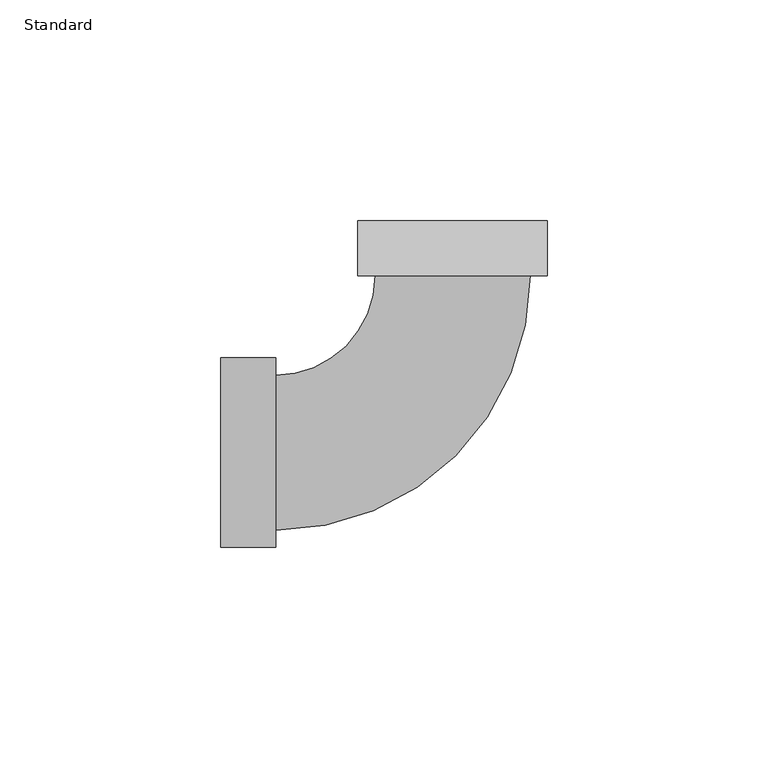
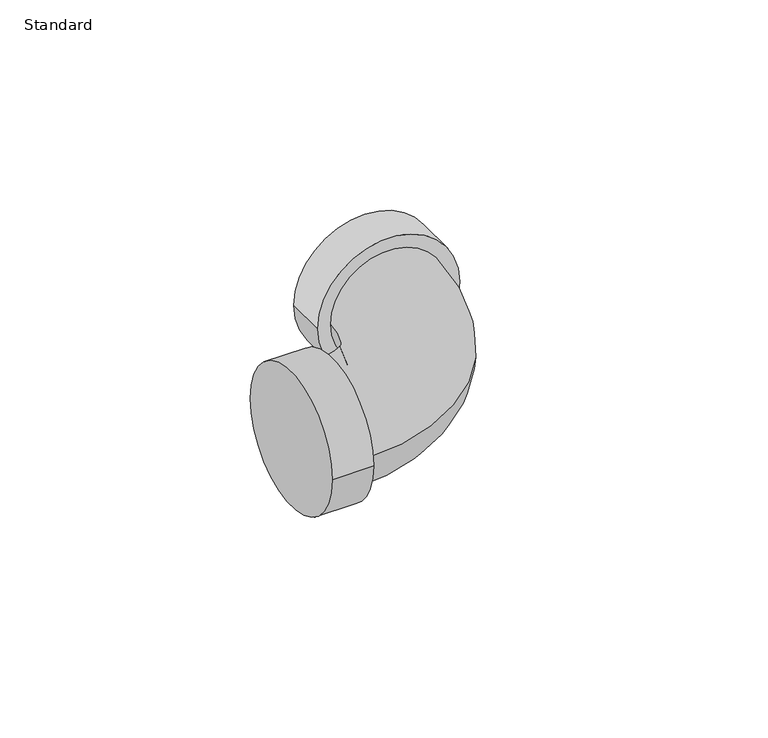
"""IFC4 building model written with IfcOpenShell, lengths in millimetres: pipe fitting geometry, Elbow_45_90-Lubrizol-CPVC-FlowGuard_MX : Standard."""

from ifc_helpers import new_model, si_unit, point, frame, origin, place, context, project, spatial, circle_curve, ellipse_curve, trimmed, source, transform, mapped, element, save
from ifc_brep_helpers import plane_surface, cylinder_surface, revolved_surface, advanced_brep


def standard_b153bf5a(model_context):
    return source(origin(), model_context, "Body", "AdvancedBrep", [
        advanced_brep(
        [(-52.6140625, -21.4871094, 0.0), (-52.6140625, 21.4871094, 0.0), (-40.1140625, -21.4871094, 0.0), (-40.1140625, 21.4871094, 0.0), (-40.1140625, -17.5640625, 0.0), (-40.1140625, 17.5640625, 0.0), (-17.5640625, 40.1140625, 0.0), (17.5640625, 40.1140625, 0.0), (21.4871094, 40.1140625, 0.0), (-21.4871094, 40.1140625, 0.0), (21.4871094, 52.6140625, 0.0), (-21.4871094, 52.6140625, 0.0)],
        [
            (0, 1, circle_curve(frame((-52.6140625, 0.0, 0.0), z_axis=(-1.0, 0.0, 0.0), x_axis=(0.0, 1.0, 0.0)), 21.4871094)),
            (1, 0, circle_curve(frame((-52.6140625, 0.0, 0.0), z_axis=(-1.0, 0.0, 0.0), x_axis=(0.0, 1.0, 0.0)), 21.4871094)),
            (2, 3, circle_curve(frame((-40.1140625, 0.0, 0.0), z_axis=(1.0, 0.0, 0.0), x_axis=(0.0, 1.0, 0.0)), 21.4871094)),
            (3, 2, circle_curve(frame((-40.1140625, 0.0, 0.0), z_axis=(1.0, 0.0, 0.0), x_axis=(0.0, 1.0, 0.0)), 21.4871094)),
            (4, 5, circle_curve(frame((-40.1140625, 0.0, 0.0), z_axis=(-1.0, 0.0, 0.0), x_axis=(0.0, 1.0, 0.0)), 17.5640625)),
            (5, 4, circle_curve(frame((-40.1140625, 0.0, 0.0), z_axis=(-1.0, 0.0, 0.0), x_axis=(0.0, 1.0, 0.0)), 17.5640625)),
            (0, 2),
            (3, 1),
            (6, 5, circle_curve(frame((-40.1140625, 40.1140625, 0.0), z_axis=(0.0, 0.0, -1.0), x_axis=(0.0, -1.0, 0.0)), 22.55)),
            (4, 7, circle_curve(frame((-40.1140625, 40.1140625, 0.0), z_axis=(0.0, 0.0, 1.0), x_axis=(0.0, -1.0, 0.0)), 57.678125)),
            (7, 6, circle_curve(frame((0.0, 40.1140625, 0.0), z_axis=(0.0, -1.0, 0.0), x_axis=(-1.0, 0.0, 0.0)), 17.5640625)),
            (6, 7, circle_curve(frame((0.0, 40.1140625, 0.0), z_axis=(0.0, -1.0, 0.0), x_axis=(-1.0, 0.0, 0.0)), 17.5640625)),
            (8, 9, circle_curve(frame((0.0, 40.1140625, 0.0), z_axis=(0.0, -1.0, 0.0), x_axis=(-1.0, 0.0, 0.0)), 21.4871094)),
            (9, 8, circle_curve(frame((0.0, 40.1140625, 0.0), z_axis=(0.0, -1.0, 0.0), x_axis=(-1.0, 0.0, 0.0)), 21.4871094)),
            (10, 11, circle_curve(frame((0.0, 52.6140625, 0.0), z_axis=(0.0, 1.0, 0.0), x_axis=(-1.0, 0.0, 0.0)), 21.4871094)),
            (11, 10, circle_curve(frame((0.0, 52.6140625, 0.0), z_axis=(0.0, 1.0, 0.0), x_axis=(-1.0, 0.0, 0.0)), 21.4871094)),
            (8, 10),
            (11, 9),
        ],
        [
            plane_surface(frame((-52.6140625, 0.0, 0.0), z_axis=(-1.0, 0.0, 0.0), x_axis=(0.0, 0.0, 1.0))),
            plane_surface(frame((-40.1140625, 0.0, 0.0), z_axis=(1.0, 0.0, 0.0), x_axis=(0.0, 0.0, 1.0))),
            cylinder_surface(frame((-52.6140625, 0.0, 0.0), z_axis=(-1.0, 0.0, 0.0), x_axis=(0.0, 1.0, 0.0)), 21.4871094),
            revolved_surface(trimmed(ellipse_curve(frame((-40.1140625, 0.0, 0.0), z_axis=(-1.0, 0.0, 0.0), x_axis=(0.0, 1.0, 0.0)), 17.5640625, 17.5640625), [point((-40.1140625, -17.5640625, 0.0))], [point((-40.1140625, 17.5640625, 0.0))], True, "CARTESIAN"), (-40.1140625, 40.1140625, 0.0), (0.0, 0.0, 1.0)),
            revolved_surface(trimmed(ellipse_curve(frame((-40.1140625, 0.0, 0.0), z_axis=(-1.0, 0.0, 0.0), x_axis=(0.0, 1.0, 0.0)), 17.5640625, 17.5640625), [point((-40.1140625, 17.5640625, 0.0))], [point((-40.1140625, -17.5640625, 0.0))], True, "CARTESIAN"), (-40.1140625, 40.1140625, 0.0), (0.0, 0.0, 1.0)),
            plane_surface(frame((0.0, 40.1140625, 0.0), z_axis=(0.0, -1.0, 0.0), x_axis=(0.0, 0.0, 1.0))),
            plane_surface(frame((0.0, 52.6140625, 0.0), z_axis=(0.0, 1.0, 0.0), x_axis=(0.0, 0.0, 1.0))),
            cylinder_surface(frame((0.0, 40.1140625, 0.0), z_axis=(0.0, -1.0, 0.0), x_axis=(-1.0, 0.0, 0.0)), 21.4871094),
        ],
        [
            (0, [[1, 2]]),
            (1, [[3, 4], [5, 6]]),
            (2, [[-1, 7, -4, 8]]),
            (2, [[-2, -8, -3, -7]]),
            (3, [[9, -5, 10, 11]]),
            (4, [[-9, 12, -10, -6]]),
            (5, [[13, 14], [-11, -12]]),
            (6, [[15, 16]]),
            (7, [[-13, 17, -16, 18]]),
            (7, [[-14, -18, -15, -17]]),
        ],
    ),
    ])


if __name__ == "__main__":
    model = new_model("IFC4")
    model_context = context("Model", 3, world=origin())
    ifc_project = project(units=[si_unit("LENGTHUNIT", "METRE", prefix="MILLI")], contexts=[model_context])
    site = spatial("IfcSite", under=ifc_project)
    building = spatial("IfcBuilding", under=site)
    placement = place(None, origin())
    standard_shape = standard_b153bf5a(model_context)
    element("IfcPipeFitting", 1, ObjectType="Elbow_45_90-Lubrizol-CPVC-FlowGuard_MX : Standard", at=placement, inside=building, context=model_context, shape_type="MappedRepresentation", body=[
        mapped(standard_shape, transform((0.0, 0.0, 0.0), x_axis=(1.0, 0.0, 0.0), y_axis=(0.0, 1.0, 0.0), z_axis=(0.0, 0.0, 1.0))),
    ])
    save(model, "model.ifc")
